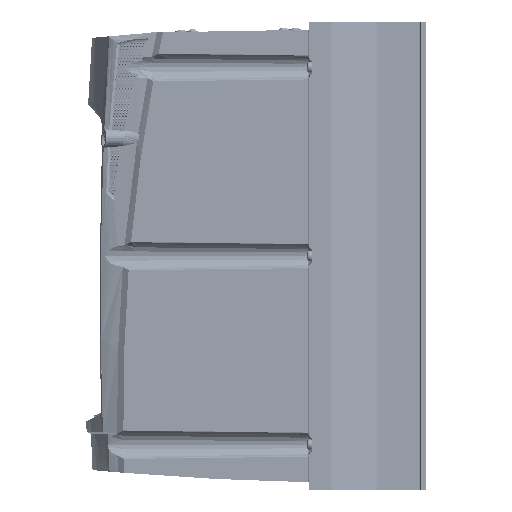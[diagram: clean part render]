
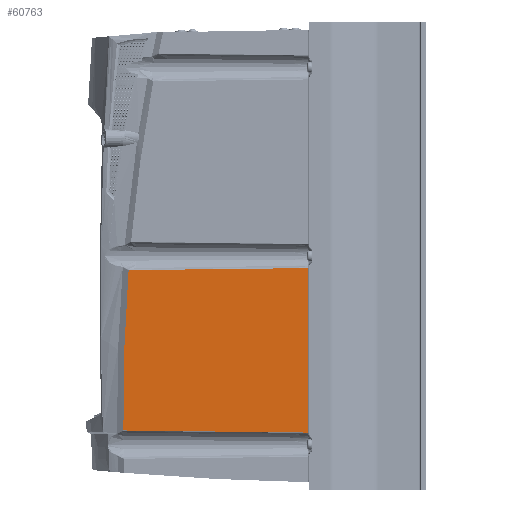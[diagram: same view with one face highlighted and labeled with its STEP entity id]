
A CAD part, left-side view. The second image highlights one B-rep face of the part: STEP entity #60763.
In plain terms, the highlighted planar face has unit normal (-1, 0.018, 0).
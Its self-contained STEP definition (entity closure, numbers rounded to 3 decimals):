
#101 = CARTESIAN_POINT ( 'NONE',  ( -93.033, 124.49, -9.414 ) ) ;
#148 = B_SPLINE_CURVE_WITH_KNOTS ( 'NONE', 3,
 ( #39130, #60693, #92940, #38442 ),
 .UNSPECIFIED., .F., .F.,
 ( 4, 4 ),
 ( 0., 0.107 ),
 .UNSPECIFIED. ) ;
#501 = EDGE_CURVE ( 'NONE', #8141, #17831, #81591, .T. ) ;
#2265 = CARTESIAN_POINT ( 'NONE',  ( -92.972, 127.942, -115.611 ) ) ;
#3307 = ORIENTED_EDGE ( 'NONE', *, *, #49302, .T. ) ;
#4661 = CARTESIAN_POINT ( 'NONE',  ( -95.11, 5.491, -117.025 ) ) ;
#5521 = CARTESIAN_POINT ( 'NONE',  ( -94.417, 45.157, -8.551 ) ) ;
#6278 = CARTESIAN_POINT ( 'NONE',  ( -93.033, 124.491, -9.428 ) ) ;
#6658 = CARTESIAN_POINT ( 'NONE',  ( -94.397, 46.307, -116.522 ) ) ;
#8141 = VERTEX_POINT ( 'NONE', #84734 ) ;
#9066 = FACE_OUTER_BOUND ( 'NONE', #69090, .T. ) ;
#15616 = CARTESIAN_POINT ( 'NONE',  ( -93.033, 124.492, -9.435 ) ) ;
#17831 = VERTEX_POINT ( 'NONE', #133661 ) ;
#18319 = ORIENTED_EDGE ( 'NONE', *, *, #44955, .T. ) ;
#19139 = DIRECTION ( 'NONE',  ( -1., 0.017, 0. ) ) ;
#19405 = CARTESIAN_POINT ( 'NONE',  ( -95.11, 5.491, -8.062 ) ) ;
#20562 = DIRECTION ( 'NONE',  ( 0.017, 1., 0. ) ) ;
#23100 = VERTEX_POINT ( 'NONE', #4661 ) ;
#23569 = CARTESIAN_POINT ( 'NONE',  ( -95.11, 5.491, -155.044 ) ) ;
#26428 = CARTESIAN_POINT ( 'NONE',  ( -93.033, 124.491, -9.421 ) ) ;
#28225 = CARTESIAN_POINT ( 'NONE',  ( -92.972, 127.939, -115.636 ) ) ;
#29214 = CARTESIAN_POINT ( 'NONE',  ( -93.033, 124.49, -9.414 ) ) ;
#38442 = CARTESIAN_POINT ( 'NONE',  ( -92.972, 127.942, -115.598 ) ) ;
#39130 = CARTESIAN_POINT ( 'NONE',  ( -93.033, 124.492, -9.435 ) ) ;
#43528 = CARTESIAN_POINT ( 'NONE',  ( -95.207, -0.087, -155.044 ) ) ;
#43942 = ORIENTED_EDGE ( 'NONE', *, *, #137989, .T. ) ;
#44955 = EDGE_CURVE ( 'NONE', #23100, #139394, #70733, .T. ) ;
#45695 = ORIENTED_EDGE ( 'NONE', *, *, #501, .T. ) ;
#46084 = CARTESIAN_POINT ( 'NONE',  ( -92.972, 127.939, -115.636 ) ) ;
#47490 = VERTEX_POINT ( 'NONE', #101 ) ;
#49183 = DIRECTION ( 'NONE',  ( 0., 0., 1. ) ) ;
#49302 = EDGE_CURVE ( 'NONE', #17831, #23100, #135335, .T. ) ;
#50487 = CARTESIAN_POINT ( 'NONE',  ( -95.11, 5.491, -117.025 ) ) ;
#52171 = CARTESIAN_POINT ( 'NONE',  ( -93.725, 84.823, -8.996 ) ) ;
#52908 = PLANE ( 'NONE',  #120847 ) ;
#56132 = CARTESIAN_POINT ( 'NONE',  ( -92.972, 127.942, -115.598 ) ) ;
#57831 = ORIENTED_EDGE ( 'NONE', *, *, #120604, .T. ) ;
#60693 = CARTESIAN_POINT ( 'NONE',  ( -92.985, 127.213, -44.748 ) ) ;
#60759 = VERTEX_POINT ( 'NONE', #117438 ) ;
#60763 = ADVANCED_FACE ( 'NONE', ( #9066 ), #52908, .T. ) ;
#69090 = EDGE_LOOP ( 'NONE', ( #43942, #57831, #93696, #45695, #3307, #18319 ) ) ;
#70733 = LINE ( 'NONE', #23569, #84747 ) ;
#81591 = B_SPLINE_CURVE_WITH_KNOTS ( 'NONE', 3,
 ( #56132, #2265, #122080, #46084 ),
 .UNSPECIFIED., .F., .F.,
 ( 4, 4 ),
 ( 0., 0. ),
 .UNSPECIFIED. ) ;
#84412 = B_SPLINE_CURVE_WITH_KNOTS ( 'NONE', 3,
 ( #127468, #5521, #52171, #29214 ),
 .UNSPECIFIED., .F., .F.,
 ( 4, 4 ),
 ( 0., 0.119 ),
 .UNSPECIFIED. ) ;
#84734 = CARTESIAN_POINT ( 'NONE',  ( -92.972, 127.942, -115.598 ) ) ;
#84747 = VECTOR ( 'NONE', #49183, 1000. ) ;
#92940 = CARTESIAN_POINT ( 'NONE',  ( -92.965, 128.365, -80.182 ) ) ;
#93696 = ORIENTED_EDGE ( 'NONE', *, *, #131620, .T. ) ;
#101665 = B_SPLINE_CURVE_WITH_KNOTS ( 'NONE', 3,
 ( #124684, #26428, #6278, #15616 ),
 .UNSPECIFIED., .F., .F.,
 ( 4, 4 ),
 ( 0., 0. ),
 .UNSPECIFIED. ) ;
#104960 = CARTESIAN_POINT ( 'NONE',  ( -93.685, 87.123, -116.065 ) ) ;
#117438 = CARTESIAN_POINT ( 'NONE',  ( -93.033, 124.492, -9.435 ) ) ;
#120604 = EDGE_CURVE ( 'NONE', #47490, #60759, #101665, .T. ) ;
#120847 = AXIS2_PLACEMENT_3D ( 'NONE', #43528, #19139, #20562 ) ;
#122080 = CARTESIAN_POINT ( 'NONE',  ( -92.972, 127.941, -115.624 ) ) ;
#124684 = CARTESIAN_POINT ( 'NONE',  ( -93.033, 124.49, -9.414 ) ) ;
#127468 = CARTESIAN_POINT ( 'NONE',  ( -95.11, 5.491, -8.062 ) ) ;
#131620 = EDGE_CURVE ( 'NONE', #60759, #8141, #148, .T. ) ;
#133661 = CARTESIAN_POINT ( 'NONE',  ( -92.972, 127.939, -115.636 ) ) ;
#135335 = B_SPLINE_CURVE_WITH_KNOTS ( 'NONE', 3,
 ( #28225, #104960, #6658, #50487 ),
 .UNSPECIFIED., .F., .F.,
 ( 4, 4 ),
 ( 0., 0.122 ),
 .UNSPECIFIED. ) ;
#137989 = EDGE_CURVE ( 'NONE', #139394, #47490, #84412, .T. ) ;
#139394 = VERTEX_POINT ( 'NONE', #19405 ) ;
